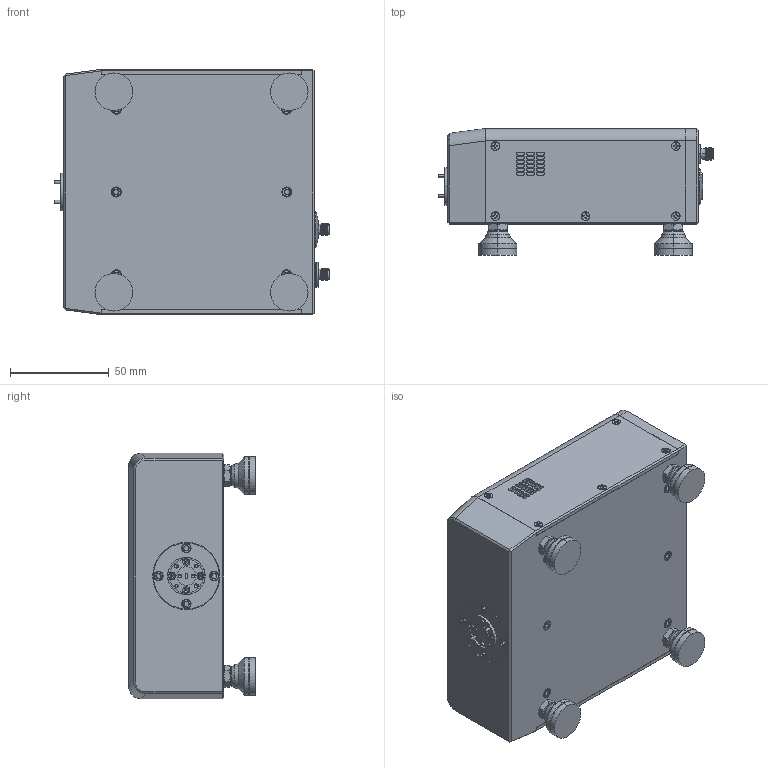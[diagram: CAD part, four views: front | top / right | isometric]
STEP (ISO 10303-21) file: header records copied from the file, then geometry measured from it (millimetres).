
FILE_DESCRIPTION (( 'STEP AP214' ), '1' );
FILE_NAME ('TC-W-A Rev 1.0, CTRLD.STEP', '2024-05-17T18:23:50', ( '' ), ( '' ), 'SwSTEP 2.0', 'SolidWorks 2021', '' );
FILE_SCHEMA (( 'AUTOMOTIVE_DESIGN' ));
Length unit declared in the file: inch
Products named in the file (1): TC-W-A Rev 1.0, CTRLD
Bounding box: 139.21 x 64.14 x 124.32 mm (x, y, z)
Volume: 761516.9 mm3; surface area: 107888.3 mm2
Topology: 3 solids, 4 shells, 1633 faces, 4227 edges, 2688 vertices
Faces by surface type: plane 756, cylinder 495, cone 364, sphere 10, bspline 6, torus 2
Entity records: 52889 total; most frequent: CARTESIAN_POINT 13484, ORIENTED_EDGE 8430, DIRECTION 8011, EDGE_CURVE 4215, AXIS2_PLACEMENT_3D 2925, VERTEX_POINT 2688, VECTOR 2161, LINE 2161
